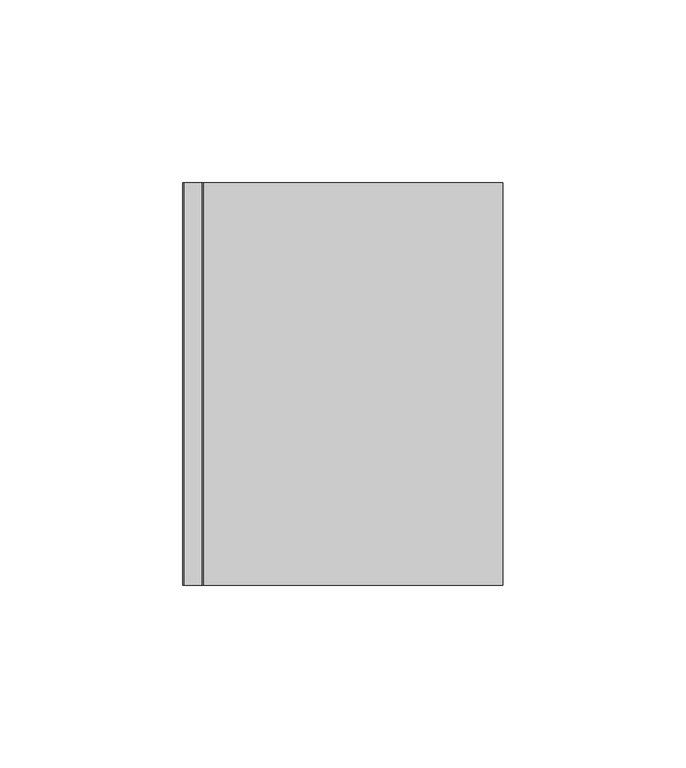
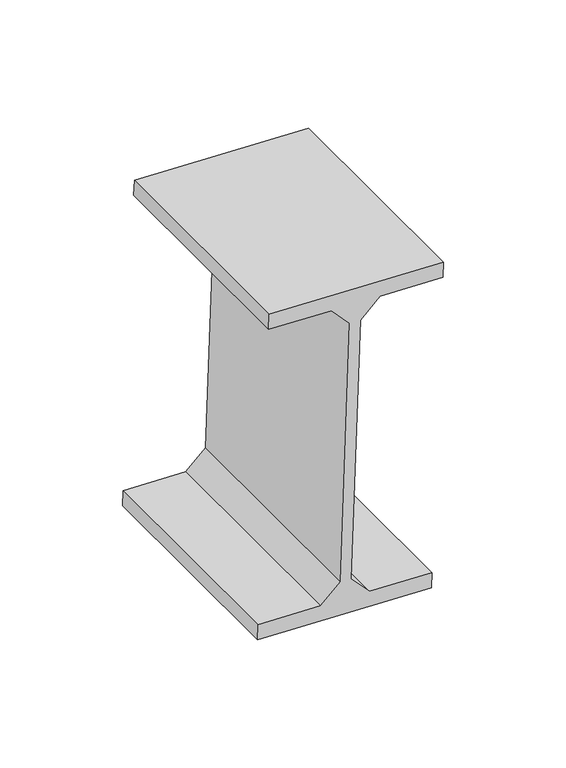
"""IFC4 building model written with IfcOpenShell, lengths in millimetres: beam geometry, Panne 1871 : Panne 1871."""

from ifc_helpers import new_model, si_unit, frame, origin, place, context, project, spatial, polyline, outline, extrude, source, transform, mapped, element, save


def beam_342e43ec(model_context):
    return source(origin(), model_context, "Body", "SweptSolid", [
        extrude(outline(polyline([(7419.759381, 13435.7911698), (7411.0796957, 13426.48187), (7412.1115638, 13396.9999222), (7404.7160922, 13396.7410807), (7401.8478484, 13478.6909017), (7409.2433201, 13478.9497433), (7410.2751883, 13449.4677954), (7419.5844881, 13440.7881101), (7546.7066496, 13445.2373858), (7555.3863349, 13454.5466856), (7554.3544667, 13484.0286334), (7561.7499384, 13484.2874749), (7564.6181821, 13402.3376538), (7557.2227105, 13402.0788123), (7556.1908423, 13431.5607601), (7546.8815425, 13440.2404454), (7419.759381, 13435.7911698)])), frame((0.0, -15.0, 0.0), z_axis=(0.0, 1.0, 0.0), x_axis=(0.0, 0.0, 1.0)), (0.0, 0.0, 1.0), 110.0),
    ])


if __name__ == "__main__":
    model = new_model("IFC4")
    model_context = context("Model", 3, world=origin())
    ifc_project = project(units=[si_unit("LENGTHUNIT", "METRE", prefix="MILLI")], contexts=[model_context])
    site = spatial("IfcSite", under=ifc_project)
    building = spatial("IfcBuilding", under=site)
    placement = place(None, origin())
    beam_shape = beam_342e43ec(model_context)
    element("IfcBeam", 1, ObjectType="Panne 1871 : Panne 1871", at=placement, inside=building, context=model_context, shape_type="MappedRepresentation", body=[
        mapped(beam_shape, transform((0.0, 0.0, 0.0), x_axis=(1.0, 0.0, 0.0), y_axis=(0.0, 1.0, 0.0), z_axis=(0.0, 0.0, 1.0))),
    ])
    save(model, "model.ifc")
